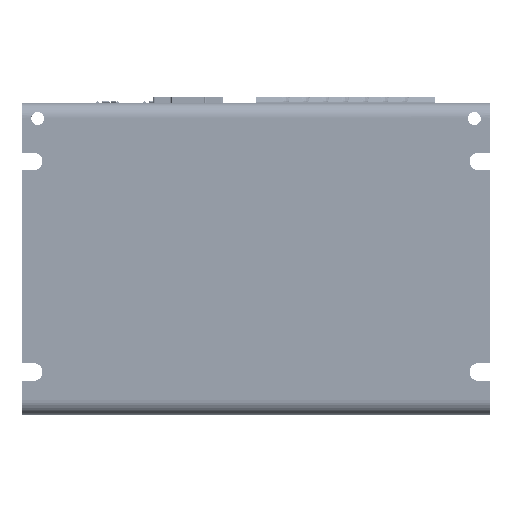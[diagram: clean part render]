
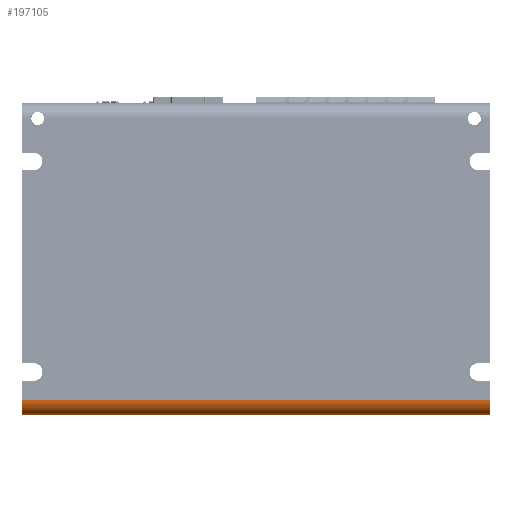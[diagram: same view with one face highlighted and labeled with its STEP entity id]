
A CAD part, left-side view. The second image highlights one B-rep face of the part: STEP entity #197105.
In plain terms, the highlighted cylindrical face has radius 3.8 mm (diameter 7.6 mm), a partial arc.
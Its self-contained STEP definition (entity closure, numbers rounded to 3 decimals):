
#1249 = CYLINDRICAL_SURFACE ( 'NONE', #68053, 3.8 ) ;
#2104 = VECTOR ( 'NONE', #267344, 1000. ) ;
#4282 = VERTEX_POINT ( 'NONE', #186171 ) ;
#7283 = EDGE_CURVE ( 'NONE', #4282, #261900, #146773, .T. ) ;
#30641 = EDGE_CURVE ( 'NONE', #233972, #53951, #150079, .T. ) ;
#31105 = DIRECTION ( 'NONE',  ( 0., 0., 1. ) ) ;
#35346 = CARTESIAN_POINT ( 'NONE',  ( -27.239, 57.5, -46. ) ) ;
#36242 = ORIENTED_EDGE ( 'NONE', *, *, #241380, .F. ) ;
#43734 = LINE ( 'NONE', #245566, #2104 ) ;
#52099 = DIRECTION ( 'NONE',  ( 0., -1., 0. ) ) ;
#53951 = VERTEX_POINT ( 'NONE', #103433 ) ;
#66656 = FACE_OUTER_BOUND ( 'NONE', #252984, .T. ) ;
#68053 = AXIS2_PLACEMENT_3D ( 'NONE', #155134, #242364, #111601 ) ;
#74756 = CARTESIAN_POINT ( 'NONE',  ( -27.239, 57.5, -42.2 ) ) ;
#77627 = EDGE_CURVE ( 'NONE', #53951, #4282, #118243, .T. ) ;
#103433 = CARTESIAN_POINT ( 'NONE',  ( -27.239, -62.5, -46. ) ) ;
#111601 = DIRECTION ( 'NONE',  ( 0., 0., -1. ) ) ;
#116032 = CARTESIAN_POINT ( 'NONE',  ( -27.239, -62.5, -42.2 ) ) ;
#118243 = LINE ( 'NONE', #35346, #153785 ) ;
#128629 = ORIENTED_EDGE ( 'NONE', *, *, #7283, .F. ) ;
#132867 = ORIENTED_EDGE ( 'NONE', *, *, #30641, .F. ) ;
#136404 = DIRECTION ( 'NONE',  ( 0., 0., 1. ) ) ;
#141409 = DIRECTION ( 'NONE',  ( 0., 1., 0. ) ) ;
#146773 = CIRCLE ( 'NONE', #267472, 3.8 ) ;
#150079 = CIRCLE ( 'NONE', #154625, 3.8 ) ;
#153785 = VECTOR ( 'NONE', #141409, 1000. ) ;
#154625 = AXIS2_PLACEMENT_3D ( 'NONE', #116032, #52099, #136404 ) ;
#155134 = CARTESIAN_POINT ( 'NONE',  ( -27.239, 57.5, -42.2 ) ) ;
#160403 = DIRECTION ( 'NONE',  ( 0., 1., 0. ) ) ;
#186171 = CARTESIAN_POINT ( 'NONE',  ( -27.239, 57.5, -46. ) ) ;
#195550 = CARTESIAN_POINT ( 'NONE',  ( -31.039, -62.5, -42.2 ) ) ;
#195966 = ORIENTED_EDGE ( 'NONE', *, *, #77627, .F. ) ;
#197105 = ADVANCED_FACE ( 'NONE', ( #66656 ), #1249, .T. ) ;
#233972 = VERTEX_POINT ( 'NONE', #195550 ) ;
#241380 = EDGE_CURVE ( 'NONE', #261900, #233972, #43734, .T. ) ;
#242364 = DIRECTION ( 'NONE',  ( 0., -1., 0. ) ) ;
#245566 = CARTESIAN_POINT ( 'NONE',  ( -31.039, 57.5, -42.2 ) ) ;
#252984 = EDGE_LOOP ( 'NONE', ( #128629, #195966, #132867, #36242 ) ) ;
#255187 = CARTESIAN_POINT ( 'NONE',  ( -31.039, 57.5, -42.2 ) ) ;
#261900 = VERTEX_POINT ( 'NONE', #255187 ) ;
#267344 = DIRECTION ( 'NONE',  ( 0., -1., 0. ) ) ;
#267472 = AXIS2_PLACEMENT_3D ( 'NONE', #74756, #160403, #31105 ) ;
